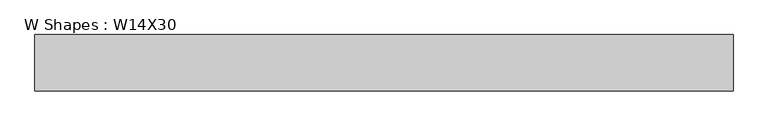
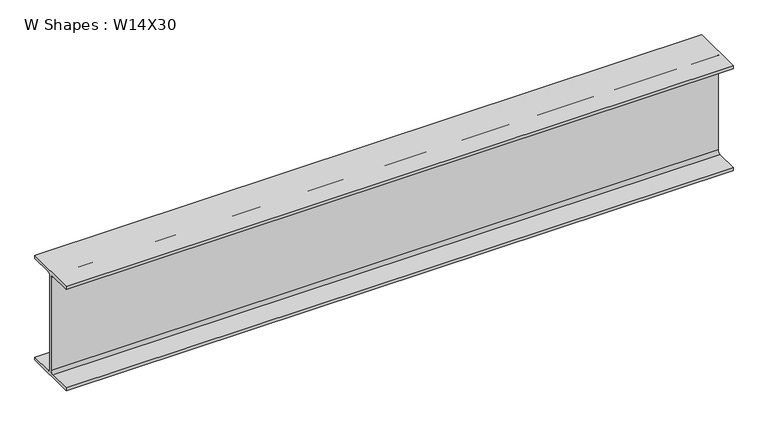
"""IFC4 building model written with IfcOpenShell, lengths in millimetres: beam geometry, W Shapes : W14X30."""

import ifcopenshell
import ifcopenshell.guid

model = None  # the IFC model being written
_history = None  # IfcOwnerHistory: only IFC2X3 demands one
_inside = {}  # id of a spatial element -> (the spatial element, [elements in it])
_under = {}  # id of a project, library or spatial element -> (it, [spatial elements below it])
_declared = {}  # id of a project -> (the project, [libraries it declares])
_typed = {}  # id of a type object -> (the type object, [elements of that type])
_made_of = {}  # id of a material, layer set ... -> (it, [elements and type objects made of it])


def new_model(schema):
    """Start an empty IFC model of exactly this schema.

    Asked for "IFC4X3", IfcOpenShell would pick the latest addendum, in which some entities
    have other attributes; the version numbers below select the first issue.
    IFC2X3 requires an IfcOwnerHistory on every rooted entity: one is made here for all.
    """
    global model, _history
    if schema == "IFC4X3":
        model = ifcopenshell.file(schema_version=(4, 3, 0, 0))
    else:
        model = ifcopenshell.file(schema=schema)
    _inside.clear()
    _under.clear()
    _declared.clear()
    _typed.clear()
    _made_of.clear()
    _history = None
    if model.schema == "IFC2X3":
        org = make("IfcOrganization", Name="unknown")
        user = make(
            "IfcPersonAndOrganization",
            ThePerson=make("IfcPerson", FamilyName="unknown"),
            TheOrganization=org,
        )
        app = make(
            "IfcApplication",
            ApplicationDeveloper=org,
            Version="unknown",
            ApplicationFullName="unknown",
            ApplicationIdentifier="unknown",
        )
        _history = make(
            "IfcOwnerHistory",
            OwningUser=user,
            OwningApplication=app,
            ChangeAction="ADDED",
            CreationDate=0,
        )
    return model


def make(cls, **values):
    """One entity of the class cls with the attributes given. An attribute that is None is left unset."""
    return model.create_entity(
        cls, **{name: value for name, value in values.items() if value is not None}
    )


def rooted(cls, **values):
    """An entity with a GlobalId (a new one), such as an element, a storey or a relation."""
    return make(cls, GlobalId=ifcopenshell.guid.new(), OwnerHistory=_history, **values)


def si_unit(unit_type, name, prefix=None):
    """IfcSIUnit, for example si_unit("LENGTHUNIT", "METRE", prefix="MILLI")."""
    return make("IfcSIUnit", UnitType=unit_type, Prefix=prefix, Name=name)


def assignment(units):
    """IfcUnitAssignment: the units of a project."""
    return None if units is None else make("IfcUnitAssignment", Units=units)


def point(xyz):
    """IfcCartesianPoint."""
    return None if xyz is None else make("IfcCartesianPoint", Coordinates=xyz)


def direction(xyz):
    """IfcDirection."""
    return None if xyz is None else make("IfcDirection", DirectionRatios=xyz)


def frame(location, z_axis=None, x_axis=None):
    """IfcAxis2Placement3D, a coordinate frame: its origin and axes. An axis left out is left unset."""
    return make(
        "IfcAxis2Placement3D",
        Location=point(location),
        Axis=direction(z_axis),
        RefDirection=direction(x_axis),
    )


def frame_2d(location, x_axis=None):
    """IfcAxis2Placement2D, a coordinate frame in the plane: its origin and x axis."""
    return make(
        "IfcAxis2Placement2D", Location=point(location), RefDirection=direction(x_axis)
    )


def origin():
    """The frame at (0, 0, 0) with its axes left unset."""
    return frame((0.0, 0.0, 0.0))


def place(relative_to, where):
    """IfcLocalPlacement: puts the frame where relative to a parent placement (None: the world)."""
    return make(
        "IfcLocalPlacement", PlacementRelTo=relative_to, RelativePlacement=where
    )


def context(
    kind, dimensions, precision=None, world=None, true_north=None, identifier=None
):
    """IfcGeometricRepresentationContext, for example the 3D "Model" context."""
    return make(
        "IfcGeometricRepresentationContext",
        ContextIdentifier=identifier,
        ContextType=kind,
        CoordinateSpaceDimension=dimensions,
        Precision=precision,
        WorldCoordinateSystem=world,
        TrueNorth=true_north,
    )


def project(units=None, contexts=None):
    """IfcProject with its units and contexts."""
    return rooted(
        "IfcProject",
        Name="project",
        RepresentationContexts=contexts,
        UnitsInContext=assignment(units),
    )


def spatial(cls, under=None, at=None, **own):
    """A site, building, storey or space (cls), placed at a placement, below another one or the project."""
    s = rooted(cls, ObjectPlacement=at, **own)
    if under is not None:
        _under.setdefault(under.id(), (under, []))[1].append(s)
    return s


def polyline(points):
    """IfcPolyline through the points."""
    return make("IfcPolyline", Points=[point(p) for p in points])


def circle_curve(where, radius):
    """IfcCircle in the frame where."""
    return make("IfcCircle", Position=where, Radius=radius)


def trimmed(basis, trim1, trim2, sense, master):
    """IfcTrimmedCurve: the piece of a basis curve between two trims."""
    return make(
        "IfcTrimmedCurve",
        BasisCurve=basis,
        Trim1=trim1,
        Trim2=trim2,
        SenseAgreement=sense,
        MasterRepresentation=master,
    )


def segment(curve, same_sense, transition):
    """IfcCompositeCurveSegment."""
    return make(
        "IfcCompositeCurveSegment",
        Transition=transition,
        SameSense=same_sense,
        ParentCurve=curve,
    )


def composite_curve(segments, self_intersect=None):
    """IfcCompositeCurve: segments joined end to end."""
    return make("IfcCompositeCurve", Segments=segments, SelfIntersect=self_intersect)


def outline(outer, holes=None, kind="AREA"):
    """IfcArbitraryClosedProfileDef: a profile drawn as a closed curve; with holes, ...WithVoids."""
    if holes is None:
        return make("IfcArbitraryClosedProfileDef", ProfileType=kind, OuterCurve=outer)
    return make(
        "IfcArbitraryProfileDefWithVoids",
        ProfileType=kind,
        OuterCurve=outer,
        InnerCurves=holes,
    )


def extrude(swept, where, along, depth):
    """IfcExtrudedAreaSolid: the profile swept, set in the frame where, extruded along a direction by depth."""
    return make(
        "IfcExtrudedAreaSolid",
        SweptArea=swept,
        Position=where,
        ExtrudedDirection=direction(along),
        Depth=depth,
    )


def shape(context_of_items, identifier, shape_type, items):
    """IfcShapeRepresentation: the items that make up one representation, for example the "Body"."""
    return make(
        "IfcShapeRepresentation",
        ContextOfItems=context_of_items,
        RepresentationIdentifier=identifier,
        RepresentationType=shape_type,
        Items=items,
    )


def source(mapping_origin, context_of_items, identifier, shape_type, items):
    """IfcRepresentationMap: a shape defined once, which mapped items show again and again."""
    return make(
        "IfcRepresentationMap",
        MappingOrigin=mapping_origin,
        MappedRepresentation=shape(context_of_items, identifier, shape_type, items),
    )


def transform(
    local_origin,
    x_axis=None,
    y_axis=None,
    z_axis=None,
    scale=None,
    scale2=None,
    scale3=None,
    uniform=True,
):
    """IfcCartesianTransformationOperator3D, or its non-uniform kind. x_axis, y_axis, z_axis: its Axis1, 2, 3."""
    if uniform:
        return make(
            "IfcCartesianTransformationOperator3D",
            Axis1=direction(x_axis),
            Axis2=direction(y_axis),
            LocalOrigin=point(local_origin),
            Scale=scale,
            Axis3=direction(z_axis),
        )
    return make(
        "IfcCartesianTransformationOperator3DnonUniform",
        Axis1=direction(x_axis),
        Axis2=direction(y_axis),
        LocalOrigin=point(local_origin),
        Scale=scale,
        Axis3=direction(z_axis),
        Scale2=scale2,
        Scale3=scale3,
    )


def mapped(mapping_source, mapping_target):
    """IfcMappedItem: shows the shape of a source again, moved by a transform."""
    return make(
        "IfcMappedItem", MappingSource=mapping_source, MappingTarget=mapping_target
    )


def made_of(thing, what):
    """Note that an element or type object is made of a material, layer set ...; save() writes the relation."""
    if what is not None:
        _made_of.setdefault(what.id(), (what, []))[1].append(thing)
    return thing


def element(
    cls,
    number,
    at=None,
    inside=None,
    cuts=None,
    type_object=None,
    material=None,
    context=None,
    identifier="Body",
    shape_type=None,
    held_by="IfcProductDefinitionShape",
    body=None,
    shapes=None,
    **own,
):
    """One element of the class cls, such as IfcWall. Its Tag is "e" and its number.

    at: its placement. inside: the storey or other place that contains it. cuts: it is an
    opening in that element (IfcRelVoidsElement). A single representation is given by context,
    identifier, shape_type and body (its items); several are given by shapes. held_by: the class
    of the entity that holds the representations. save() writes the other relations.
    """
    e = rooted(cls, Tag="e%d" % number, ObjectPlacement=at, **own)
    if body is not None:
        shapes = [shape(context, identifier, shape_type, body)]
    if shapes is not None:
        e.Representation = make(held_by, Representations=shapes)
    if inside is not None:
        _inside.setdefault(inside.id(), (inside, []))[1].append(e)
    if cuts is not None:
        rooted(
            "IfcRelVoidsElement", RelatingBuildingElement=cuts, RelatedOpeningElement=e
        )
    if type_object is not None:
        _typed.setdefault(type_object.id(), (type_object, []))[1].append(e)
    return made_of(e, material)


def aggregate(whole, parts):
    """IfcRelAggregates: a whole, such as a stair, and the parts it consists of."""
    return rooted("IfcRelAggregates", RelatingObject=whole, RelatedObjects=parts)


def save(model, path):
    """Write the relations noted so far, then the file.

    IfcRelAggregates (storeys below a building ...), IfcRelContainedInSpatialStructure (elements
    in a storey), IfcRelDefinesByType, IfcRelAssociatesMaterial and IfcRelDeclares: one each for
    every whole, place, type object, material and project.
    """
    for whole, parts in _under.values():
        aggregate(whole, parts)
    for where, things in _inside.values():
        rooted(
            "IfcRelContainedInSpatialStructure",
            RelatedElements=things,
            RelatingStructure=where,
        )
    for kind, things in _typed.values():
        rooted("IfcRelDefinesByType", RelatedObjects=things, RelatingType=kind)
    for what, things in _made_of.values():
        rooted("IfcRelAssociatesMaterial", RelatedObjects=things, RelatingMaterial=what)
    for by, libraries in _declared.values():
        rooted("IfcRelDeclares", RelatingContext=by, RelatedDefinitions=libraries)
    model.write(path)


def w_shapes_w14x30_c194f466(model_context):
    return source(origin(), model_context, "Body", "SweptSolid", [
        extrude(outline(composite_curve([segment(polyline([(85.471, -165.354), (85.471, -175.26), (-85.471, -175.26), (-85.471, -165.354), (-13.589, -165.354)]), True, "CONTINUOUS"), segment(trimmed(circle_curve(frame_2d((-13.589, -155.194)), 10.16), [point((-13.589, -165.354))], [point((-3.429, -155.194))], True, "CARTESIAN"), True, "CONTINUOUS"), segment(polyline([(-3.429, -155.194), (-3.429, 155.194)]), True, "CONTINUOUS"), segment(trimmed(circle_curve(frame_2d((-13.589, 155.194)), 10.16), [point((-3.429, 155.194))], [point((-13.589, 165.354))], True, "CARTESIAN"), True, "CONTINUOUS"), segment(polyline([(-13.589, 165.354), (-85.471, 165.354), (-85.471, 175.26), (85.471, 175.26), (85.471, 165.354), (13.589, 165.354)]), True, "CONTINUOUS"), segment(trimmed(circle_curve(frame_2d((13.589, 155.194)), 10.16), [point((13.589, 165.354))], [point((3.429, 155.194))], True, "CARTESIAN"), True, "CONTINUOUS"), segment(polyline([(3.429, 155.194), (3.429, -155.194)]), True, "CONTINUOUS"), segment(trimmed(circle_curve(frame_2d((13.589, -155.194)), 10.16), [point((3.429, -155.194))], [point((13.589, -165.354))], True, "CARTESIAN"), True, "CONTINUOUS"), segment(polyline([(13.589, -165.354), (85.471, -165.354)]), True, "CONTINUOUS")], self_intersect=False)), frame((-1067.6147122, 0.0, 0.0), z_axis=(1.0, 0.0, 0.0), x_axis=(0.0, 1.0, 0.0)), (0.0, 0.0, 1.0), 2112.737227),
    ])


if __name__ == "__main__":
    model = new_model("IFC4")
    model_context = context("Model", 3, world=origin())
    ifc_project = project(units=[si_unit("LENGTHUNIT", "METRE", prefix="MILLI")], contexts=[model_context])
    site = spatial("IfcSite", under=ifc_project)
    building = spatial("IfcBuilding", under=site)
    placement = place(None, origin())
    w_shapes_w14x30_shape = w_shapes_w14x30_c194f466(model_context)
    element("IfcBeam", 1, ObjectType="W Shapes : W14X30", at=placement, inside=building, context=model_context, shape_type="MappedRepresentation", body=[
        mapped(w_shapes_w14x30_shape, transform((0.0, 0.0, 0.0), x_axis=(1.0, 0.0, 0.0), y_axis=(0.0, 1.0, 0.0), z_axis=(0.0, 0.0, 1.0))),
    ])
    save(model, "model.ifc")
